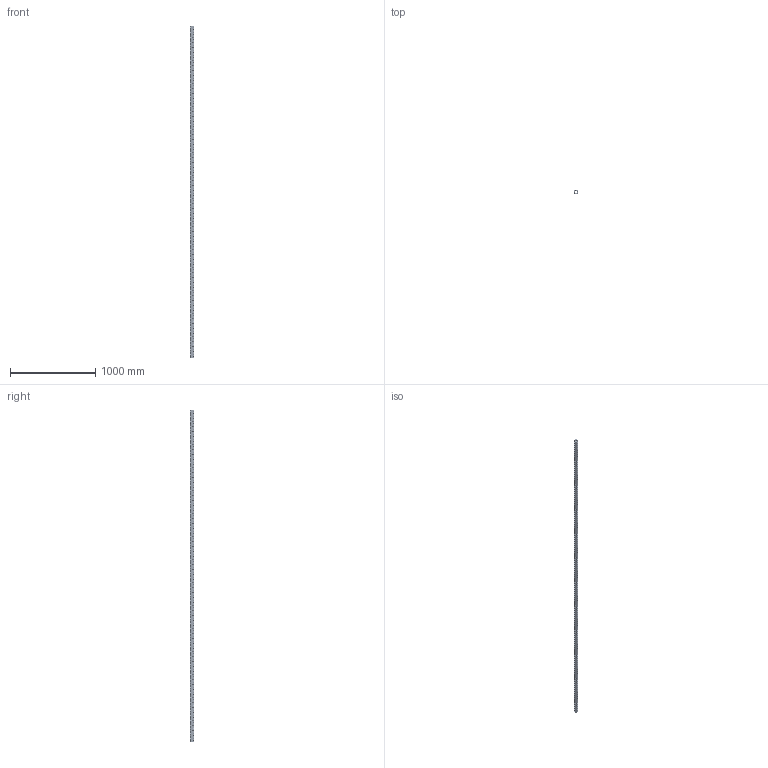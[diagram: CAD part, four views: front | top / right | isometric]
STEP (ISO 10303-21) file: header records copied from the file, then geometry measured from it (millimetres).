
FILE_DESCRIPTION(('CATIA V5 STEP Exchange'),'2;1');
FILE_NAME('U:\Room\唐宝山\EGT002\46-01-010359-01-EGT002-3898.stp','2021-08-25T01:01:48+00:00',('none'),('none'),'CATIA Version 5 Release 21 GA (IN-10)','CATIA V5 STEP AP203','none');
FILE_SCHEMA(('CONFIG_CONTROL_DESIGN'));
Products named in the file (1): 46-01-010359-01-EGT002-3898
Bounding box: 50 x 50 x 3898 mm (x, y, z)
Volume: 2777549.8 mm3; surface area: 1337379.6 mm2
Topology: 1 solids, 1 shells, 5284 faces, 14546 edges, 9004 vertices
Faces by surface type: cone 3120, cylinder 2138, plane 26
Entity records: 214282 total; most frequent: CARTESIAN_POINT 86017, ORIENTED_EDGE 29092, DIRECTION 20766, EDGE_CURVE 14546, AXIS2_PLACEMENT_3D 9893, VERTEX_POINT 9004, EDGE_LOOP 7106, VECTOR 5590
